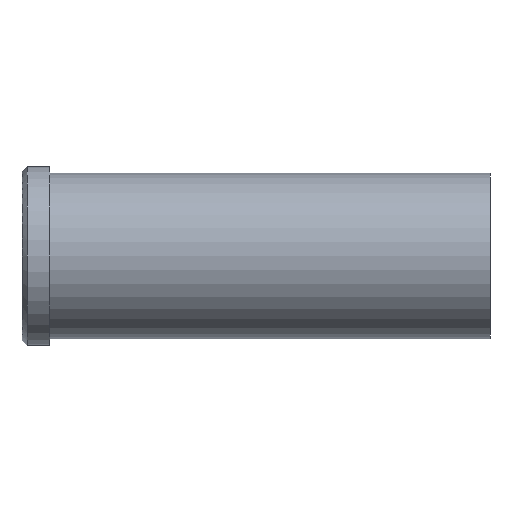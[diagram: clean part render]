
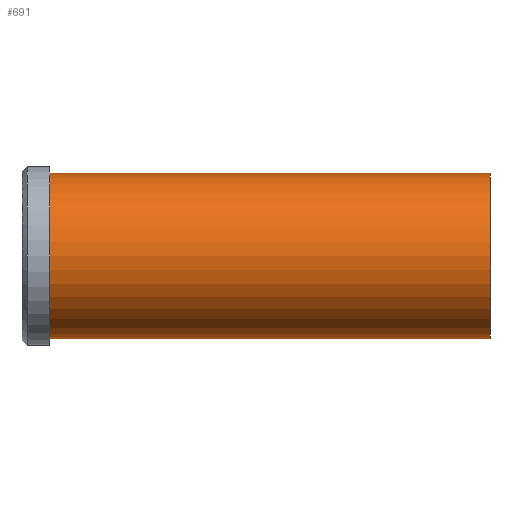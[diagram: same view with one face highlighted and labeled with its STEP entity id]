
A CAD part, front view. The second image highlights one B-rep face of the part: STEP entity #691.
In plain terms, the highlighted cylindrical face has radius 24 mm (diameter 48 mm), a partial arc.
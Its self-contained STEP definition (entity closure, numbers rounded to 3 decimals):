
#501=CARTESIAN_POINT('Vertex',(0.,0.,-24.)) ;
#506=CARTESIAN_POINT('Axis2P3D Location',(0.,0.,0.)) ;
#510=CARTESIAN_POINT('Vertex',(0.,-24.,0.)) ;
#513=CARTESIAN_POINT('Axis2P3D Location',(0.,0.,0.)) ;
#517=CARTESIAN_POINT('Vertex',(0.,0.,24.)) ;
#631=CARTESIAN_POINT('Line Origine',(128.,0.,24.)) ;
#635=CARTESIAN_POINT('Vertex',(128.,0.,24.)) ;
#649=CARTESIAN_POINT('Vertex',(128.,0.,-24.)) ;
#652=CARTESIAN_POINT('Line Origine',(128.,0.,-24.)) ;
#666=CARTESIAN_POINT('Axis2P3D Location',(128.,0.,0.)) ;
#671=CARTESIAN_POINT('Axis2P3D Location',(128.,0.,0.)) ;
#675=CARTESIAN_POINT('Vertex',(128.,-24.,0.)) ;
#678=CARTESIAN_POINT('Axis2P3D Location',(128.,0.,0.)) ;
#507=DIRECTION('Axis2P3D Direction',(1.,0.,-0.)) ;
#514=DIRECTION('Axis2P3D Direction',(1.,0.,-0.)) ;
#632=DIRECTION('Vector Direction',(-1.,0.,0.)) ;
#653=DIRECTION('Vector Direction',(-1.,0.,0.)) ;
#667=DIRECTION('Axis2P3D Direction',(-1.,-0.,-0.)) ;
#668=DIRECTION('Axis2P3D XDirection',(0.,0.,-1.)) ;
#672=DIRECTION('Axis2P3D Direction',(-1.,-0.,-0.)) ;
#679=DIRECTION('Axis2P3D Direction',(-1.,-0.,-0.)) ;
#508=AXIS2_PLACEMENT_3D('Circle Axis2P3D',#506,#507,$) ;
#515=AXIS2_PLACEMENT_3D('Circle Axis2P3D',#513,#514,$) ;
#669=AXIS2_PLACEMENT_3D('Cylinder Axis2P3D',#666,#667,#668) ;
#673=AXIS2_PLACEMENT_3D('Circle Axis2P3D',#671,#672,$) ;
#680=AXIS2_PLACEMENT_3D('Circle Axis2P3D',#678,#679,$) ;
#684=ORIENTED_EDGE('',*,*,#656,.T.) ;
#685=ORIENTED_EDGE('',*,*,#677,.F.) ;
#686=ORIENTED_EDGE('',*,*,#682,.F.) ;
#687=ORIENTED_EDGE('',*,*,#637,.T.) ;
#688=ORIENTED_EDGE('',*,*,#519,.T.) ;
#689=ORIENTED_EDGE('',*,*,#512,.T.) ;
#633=VECTOR('Line Direction',#632,1.) ;
#654=VECTOR('Line Direction',#653,1.) ;
#691=ADVANCED_FACE('353-40X136',(#690),#670,.T.) ;
#509=CIRCLE('generated circle',#508,24.) ;
#516=CIRCLE('generated circle',#515,24.) ;
#674=CIRCLE('generated circle',#673,24.) ;
#681=CIRCLE('generated circle',#680,24.) ;
#670=CYLINDRICAL_SURFACE('generated cylinder',#669,24.) ;
#512=EDGE_CURVE('',#511,#502,#509,.T.) ;
#519=EDGE_CURVE('',#518,#511,#516,.T.) ;
#637=EDGE_CURVE('',#636,#518,#634,.T.) ;
#656=EDGE_CURVE('',#502,#650,#655,.F.) ;
#677=EDGE_CURVE('',#676,#650,#674,.F.) ;
#682=EDGE_CURVE('',#636,#676,#681,.F.) ;
#683=EDGE_LOOP('',(#684,#685,#686,#687,#688,#689)) ;
#690=FACE_OUTER_BOUND('',#683,.T.) ;
#634=LINE('Line',#631,#633) ;
#655=LINE('Line',#652,#654) ;
#502=VERTEX_POINT('',#501) ;
#511=VERTEX_POINT('',#510) ;
#518=VERTEX_POINT('',#517) ;
#636=VERTEX_POINT('',#635) ;
#650=VERTEX_POINT('',#649) ;
#676=VERTEX_POINT('',#675) ;
